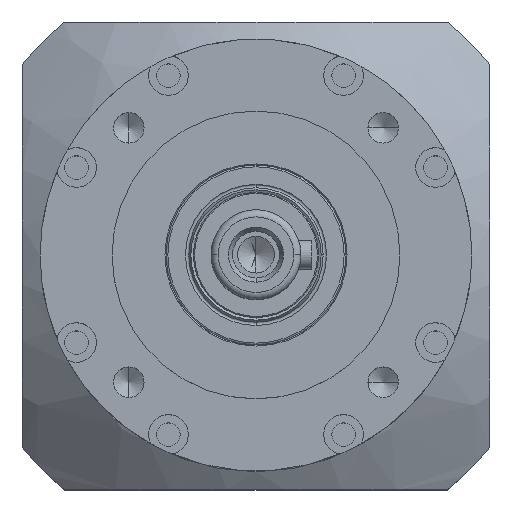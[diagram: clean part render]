
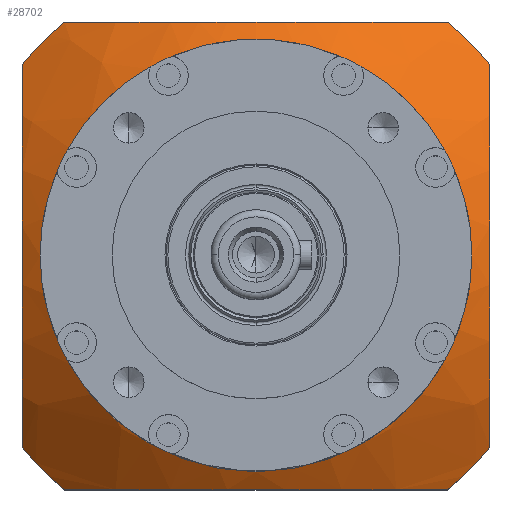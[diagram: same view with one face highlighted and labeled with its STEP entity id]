
A CAD part, top view. The second image highlights one B-rep face of the part: STEP entity #28702.
In plain terms, the highlighted spherical face has radius 120 mm.
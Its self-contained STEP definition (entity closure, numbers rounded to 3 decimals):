
#71 = SPHERICAL_SURFACE ( 'NONE', #24635, 120. ) ;
#761 = ORIENTED_EDGE ( 'NONE', *, *, #31683, .T. ) ;
#908 = CARTESIAN_POINT ( 'NONE',  ( 0., 0., -28. ) ) ;
#1007 = AXIS2_PLACEMENT_3D ( 'NONE', #37526, #17241, #40919 ) ;
#1851 = CARTESIAN_POINT ( 'NONE',  ( 65., -53.207, -46.226 ) ) ;
#2092 = DIRECTION ( 'NONE',  ( 0., 0., 1. ) ) ;
#2560 = DIRECTION ( 'NONE',  ( 0., 0., -1. ) ) ;
#4328 = DIRECTION ( 'NONE',  ( 1., 0., 0. ) ) ;
#4663 = ORIENTED_EDGE ( 'NONE', *, *, #13607, .T. ) ;
#4682 = EDGE_CURVE ( 'NONE', #35923, #27370, #12852, .T. ) ;
#6073 = DIRECTION ( 'NONE',  ( 0.792, 0., 0.611 ) ) ;
#6811 = AXIS2_PLACEMENT_3D ( 'NONE', #43211, #22977, #2560 ) ;
#6931 = EDGE_CURVE ( 'NONE', #32900, #43977, #32449, .T. ) ;
#7160 = CIRCLE ( 'NONE', #35282, 60. ) ;
#7839 = DIRECTION ( 'NONE',  ( 0., 0., 1. ) ) ;
#8738 = VERTEX_POINT ( 'NONE', #26965 ) ;
#8823 = DIRECTION ( 'NONE',  ( -1., 0., 0. ) ) ;
#9191 = CIRCLE ( 'NONE', #13148, 84. ) ;
#9813 = DIRECTION ( 'NONE',  ( 0., 1., 0. ) ) ;
#11195 = ORIENTED_EDGE ( 'NONE', *, *, #6931, .T. ) ;
#12852 = CIRCLE ( 'NONE', #14143, 60. ) ;
#12936 = CIRCLE ( 'NONE', #13491, 84. ) ;
#13148 = AXIS2_PLACEMENT_3D ( 'NONE', #22521, #2092, #25913 ) ;
#13491 = AXIS2_PLACEMENT_3D ( 'NONE', #28228, #7839, #29996 ) ;
#13607 = EDGE_CURVE ( 'NONE', #43977, #37460, #40515, .T. ) ;
#13934 = EDGE_CURVE ( 'NONE', #38074, #23842, #32028, .T. ) ;
#14143 = AXIS2_PLACEMENT_3D ( 'NONE', #36701, #16429, #40107 ) ;
#14154 = ORIENTED_EDGE ( 'NONE', *, *, #25502, .T. ) ;
#14785 = CARTESIAN_POINT ( 'NONE',  ( 0., 65., -131.923 ) ) ;
#15095 = CARTESIAN_POINT ( 'NONE',  ( 0., 0., -46.226 ) ) ;
#15349 = ORIENTED_EDGE ( 'NONE', *, *, #18570, .T. ) ;
#16376 = CARTESIAN_POINT ( 'NONE',  ( 0., 0., -131.923 ) ) ;
#16429 = DIRECTION ( 'NONE',  ( 0., 0., 1. ) ) ;
#17241 = DIRECTION ( 'NONE',  ( 0., 0., 1. ) ) ;
#18206 = FACE_OUTER_BOUND ( 'NONE', #34943, .T. ) ;
#18221 = DIRECTION ( 'NONE',  ( 0., 0., 1. ) ) ;
#18528 = DIRECTION ( 'NONE',  ( 1., 0., 0. ) ) ;
#18570 = EDGE_CURVE ( 'NONE', #41802, #32504, #39741, .T. ) ;
#19011 = AXIS2_PLACEMENT_3D ( 'NONE', #30202, #9813, #33589 ) ;
#19224 = AXIS2_PLACEMENT_3D ( 'NONE', #29234, #8823, #32632 ) ;
#20101 = ORIENTED_EDGE ( 'NONE', *, *, #4682, .F. ) ;
#20368 = FACE_BOUND ( 'NONE', #30690, .T. ) ;
#21595 = AXIS2_PLACEMENT_3D ( 'NONE', #15095, #38805, #18528 ) ;
#22521 = CARTESIAN_POINT ( 'NONE',  ( 0., 0., -46.226 ) ) ;
#22977 = DIRECTION ( 'NONE',  ( 1., 0., 0. ) ) ;
#22991 = AXIS2_PLACEMENT_3D ( 'NONE', #14785, #38489, #18221 ) ;
#23348 = ORIENTED_EDGE ( 'NONE', *, *, #24859, .F. ) ;
#23842 = VERTEX_POINT ( 'NONE', #26479 ) ;
#24635 = AXIS2_PLACEMENT_3D ( 'NONE', #16376, #6073, #40064 ) ;
#24736 = DIRECTION ( 'NONE',  ( 0., 0., 1. ) ) ;
#24782 = CARTESIAN_POINT ( 'NONE',  ( -65., 53.207, -46.226 ) ) ;
#24859 = EDGE_CURVE ( 'NONE', #27370, #35923, #7160, .T. ) ;
#25502 = EDGE_CURVE ( 'NONE', #32504, #32900, #9191, .T. ) ;
#25913 = DIRECTION ( 'NONE',  ( 1., 0., 0. ) ) ;
#25988 = ORIENTED_EDGE ( 'NONE', *, *, #29134, .T. ) ;
#26479 = CARTESIAN_POINT ( 'NONE',  ( 53.207, 65., -46.226 ) ) ;
#26965 = CARTESIAN_POINT ( 'NONE',  ( -53.207, 65., -46.226 ) ) ;
#27068 = CIRCLE ( 'NONE', #22991, 100.871 ) ;
#27370 = VERTEX_POINT ( 'NONE', #37409 ) ;
#27476 = ORIENTED_EDGE ( 'NONE', *, *, #13934, .T. ) ;
#27541 = EDGE_CURVE ( 'NONE', #8738, #41802, #12936, .T. ) ;
#28228 = CARTESIAN_POINT ( 'NONE',  ( 0., 0., -46.226 ) ) ;
#28702 = ADVANCED_FACE ( 'NONE', ( #20368, #18206 ), #71, .T. ) ;
#28924 = ORIENTED_EDGE ( 'NONE', *, *, #27541, .T. ) ;
#28936 = CARTESIAN_POINT ( 'NONE',  ( 60., 0., -28. ) ) ;
#29134 = EDGE_CURVE ( 'NONE', #37460, #38074, #33551, .T. ) ;
#29234 = CARTESIAN_POINT ( 'NONE',  ( 65., 0., -131.923 ) ) ;
#29996 = DIRECTION ( 'NONE',  ( 1., 0., 0. ) ) ;
#30202 = CARTESIAN_POINT ( 'NONE',  ( 0., -65., -131.923 ) ) ;
#30690 = EDGE_LOOP ( 'NONE', ( #20101, #23348 ) ) ;
#31683 = EDGE_CURVE ( 'NONE', #23842, #8738, #27068, .T. ) ;
#32028 = CIRCLE ( 'NONE', #21595, 84. ) ;
#32449 = CIRCLE ( 'NONE', #19011, 100.871 ) ;
#32504 = VERTEX_POINT ( 'NONE', #32607 ) ;
#32607 = CARTESIAN_POINT ( 'NONE',  ( -65., -53.207, -46.226 ) ) ;
#32632 = DIRECTION ( 'NONE',  ( 0., 0., 1. ) ) ;
#32659 = CARTESIAN_POINT ( 'NONE',  ( 53.207, -65., -46.226 ) ) ;
#32900 = VERTEX_POINT ( 'NONE', #39782 ) ;
#33551 = CIRCLE ( 'NONE', #19224, 100.871 ) ;
#33589 = DIRECTION ( 'NONE',  ( 0., 0., 1. ) ) ;
#34943 = EDGE_LOOP ( 'NONE', ( #28924, #15349, #14154, #11195, #4663, #25988, #27476, #761 ) ) ;
#35282 = AXIS2_PLACEMENT_3D ( 'NONE', #908, #24736, #4328 ) ;
#35923 = VERTEX_POINT ( 'NONE', #28936 ) ;
#36701 = CARTESIAN_POINT ( 'NONE',  ( 0., 0., -28. ) ) ;
#37409 = CARTESIAN_POINT ( 'NONE',  ( -60., 0., -28. ) ) ;
#37460 = VERTEX_POINT ( 'NONE', #1851 ) ;
#37526 = CARTESIAN_POINT ( 'NONE',  ( 0., 0., -46.226 ) ) ;
#38074 = VERTEX_POINT ( 'NONE', #39912 ) ;
#38489 = DIRECTION ( 'NONE',  ( 0., -1., 0. ) ) ;
#38805 = DIRECTION ( 'NONE',  ( 0., 0., 1. ) ) ;
#39741 = CIRCLE ( 'NONE', #6811, 100.871 ) ;
#39782 = CARTESIAN_POINT ( 'NONE',  ( -53.207, -65., -46.226 ) ) ;
#39912 = CARTESIAN_POINT ( 'NONE',  ( 65., 53.207, -46.226 ) ) ;
#40064 = DIRECTION ( 'NONE',  ( -0.611, 0., 0.792 ) ) ;
#40107 = DIRECTION ( 'NONE',  ( 1., 0., 0. ) ) ;
#40515 = CIRCLE ( 'NONE', #1007, 84. ) ;
#40919 = DIRECTION ( 'NONE',  ( 1., 0., 0. ) ) ;
#41802 = VERTEX_POINT ( 'NONE', #24782 ) ;
#43211 = CARTESIAN_POINT ( 'NONE',  ( -65., 0., -131.923 ) ) ;
#43977 = VERTEX_POINT ( 'NONE', #32659 ) ;
